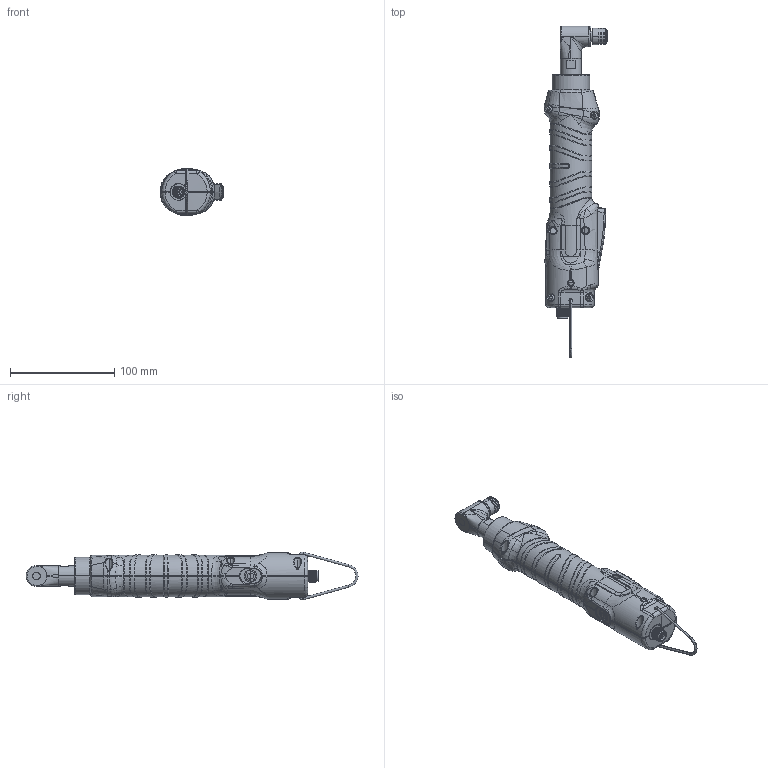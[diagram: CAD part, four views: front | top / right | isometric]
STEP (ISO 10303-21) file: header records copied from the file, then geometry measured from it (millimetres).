
FILE_DESCRIPTION (( 'STEP AP214' ), '1' );
FILE_NAME ('PLUTO6ANG-TA 134206-ANG-TA.STEP', '2023-06-14T14:48:03', ( '' ), ( '' ), 'SwSTEP 2.0', 'SolidWorks 2022', '' );
FILE_SCHEMA (( 'AUTOMOTIVE_DESIGN' ));
Length unit declared in the file: millimetre
Products named in the file (1): PLUTO6ANG-TA 134206-ANG-TA
Bounding box: 60.89 x 318.55 x 45.94 mm (x, y, z)
Surface area: 45203.2 mm2 (no closed solid volume)
Topology: 0 solids, 33 shells, 1019 faces, 3003 edges, 1956 vertices
Faces by surface type: bspline 453, cylinder 261, plane 163, cone 86, torus 53, sphere 3
Entity records: 82448 total; most frequent: CARTESIAN_POINT 49112, ORIENTED_EDGE 5029, DIRECTION 3422, EDGE_CURVE 2970, VERTEX_POINT 1950, AXIS2_PLACEMENT_3D 1321, B_SPLINE_CURVE_WITH_KNOTS 1280, EDGE_LOOP 1046
